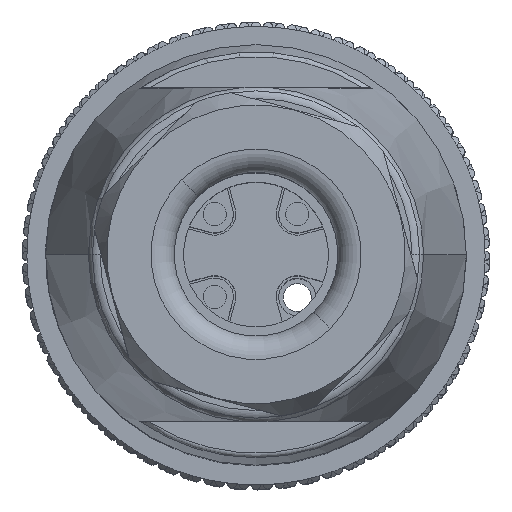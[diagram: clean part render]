
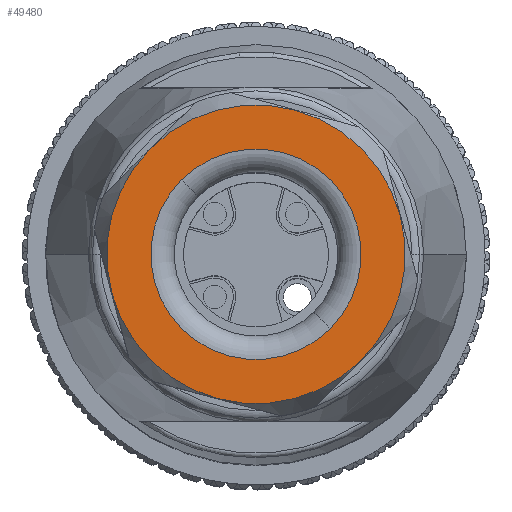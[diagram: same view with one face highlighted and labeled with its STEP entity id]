
A CAD part, top view. The second image highlights one B-rep face of the part: STEP entity #49480.
In plain terms, the highlighted planar face has unit normal (0, 0, 1).
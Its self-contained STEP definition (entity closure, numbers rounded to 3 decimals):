
#12080=CARTESIAN_POINT('',(0.,0.,
38.862));
#12081=DIRECTION('',(0.,0.,-1.));
#12082=DIRECTION('',(0.707,-0.707,0.));
#12083=AXIS2_PLACEMENT_3D('',#12080,#12081,#12082);
#12085=CARTESIAN_POINT('',(0.,0.,
38.862));
#12086=DIRECTION('',(0.,0.,-1.));
#12087=DIRECTION('',(-0.707,0.707,0.));
#12088=AXIS2_PLACEMENT_3D('',#12085,#12086,#12087);
#12090=CARTESIAN_POINT('',(0.,0.,
38.862));
#12091=DIRECTION('',(0.,0.,1.));
#12092=DIRECTION('',(-0.707,0.707,0.));
#12093=AXIS2_PLACEMENT_3D('',#12090,#12091,#12092);
#12095=CARTESIAN_POINT('',(0.,0.,
38.862));
#12096=DIRECTION('',(0.,0.,1.));
#12097=DIRECTION('',(0.707,-0.707,0.));
#12098=AXIS2_PLACEMENT_3D('',#12095,#12096,#12097);
#33258=CARTESIAN_POINT('',(-4.518,4.518,
38.862));
#33260=VERTEX_POINT('',#33258);
#33262=CARTESIAN_POINT('',(4.518,-4.518,
38.862));
#33264=VERTEX_POINT('',#33262);
#33270=CARTESIAN_POINT('',(3.182,-3.182,
38.862));
#33271=CARTESIAN_POINT('',(-3.182,3.182,
38.862));
#33272=VERTEX_POINT('',#33270);
#33273=VERTEX_POINT('',#33271);
#49465=CARTESIAN_POINT('',(0.,0.,
38.862));
#49466=DIRECTION('',(0.,0.,-1.));
#49467=DIRECTION('',(0.707,-0.707,0.));
#49468=AXIS2_PLACEMENT_3D('',#49465,#49466,#49467);
#49469=PLANE('',#49468);
#49471=ORIENTED_EDGE('',*,*,#49470,.F.);
#49473=ORIENTED_EDGE('',*,*,#49472,.F.);
#49474=EDGE_LOOP('',(#49471,#49473));
#49475=FACE_OUTER_BOUND('',#49474,.F.);
#49476=ORIENTED_EDGE('',*,*,#49458,.F.);
#49477=ORIENTED_EDGE('',*,*,#49444,.F.);
#49478=EDGE_LOOP('',(#49476,#49477));
#49479=FACE_BOUND('',#49478,.F.);
#49480=ADVANCED_FACE('',(#49475,#49479),#49469,.F.);
#12084=CIRCLE('',#12083,4.5);
#12089=CIRCLE('',#12088,4.5);
#12094=CIRCLE('',#12093,6.39);
#12099=CIRCLE('',#12098,6.39);
#49444=EDGE_CURVE('',#33273,#33272,#12089,.T.);
#49458=EDGE_CURVE('',#33272,#33273,#12084,.T.);
#49470=EDGE_CURVE('',#33260,#33264,#12094,.T.);
#49472=EDGE_CURVE('',#33264,#33260,#12099,.T.);
